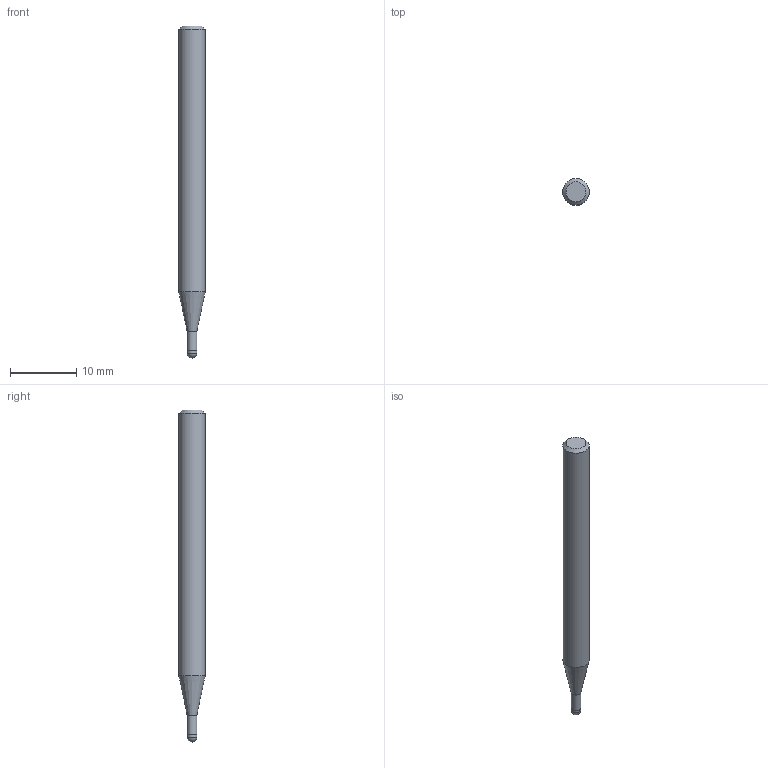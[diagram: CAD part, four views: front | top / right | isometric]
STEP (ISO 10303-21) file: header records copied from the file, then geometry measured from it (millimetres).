
FILE_DESCRIPTION((''),'2;1');
FILE_NAME('C:\Users\nsx150\AppData\Local\Temp\Mastercam 2021\ZXBT0ST9RL\TEMP.step','2021-06-25T11:02:58',(''),(''),'STEP Write','Mastercam 2021 ... CNC Software, Inc.','');
FILE_SCHEMA(('AUTOMOTIVE_DESIGN'));
Length unit declared in the file: millimetre
Products named in the file (1): None
Bounding box: 4 x 4 x 50 mm (x, y, z)
Volume: 545.1 mm3; surface area: 585.5 mm2
Topology: 2 solids, 2 shells, 9 faces, 14 edges, 8 vertices
Faces by surface type: plane 3, cylinder 3, cone 2, sphere 1
Full cylindrical faces by diameter (mm): 1.45 x1, 1.5 x1, 4 x1
Entity records: 211 total; most frequent: DIRECTION 36, CARTESIAN_POINT 25, AXIS2_PLACEMENT_3D 18, ORIENTED_EDGE 14, EDGE_LOOP 14, STYLED_ITEM 12, ADVANCED_FACE 9, FACE_BOUND 8
